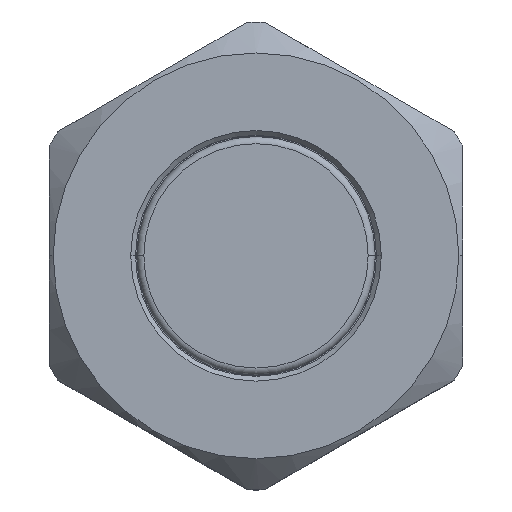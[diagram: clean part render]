
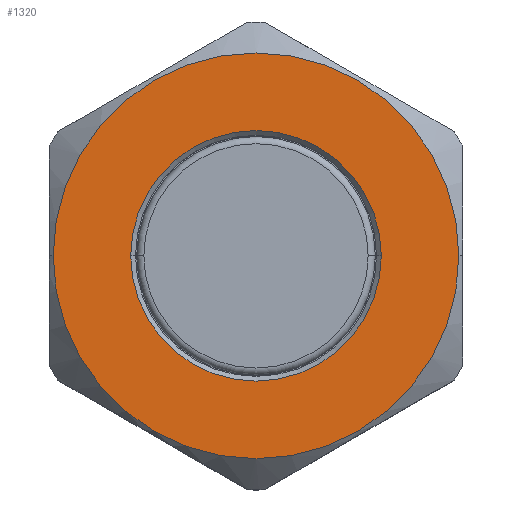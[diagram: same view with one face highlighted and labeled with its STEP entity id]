
A CAD part, top view. The second image highlights one B-rep face of the part: STEP entity #1320.
In plain terms, the highlighted planar face has unit normal (0, 0, 1).
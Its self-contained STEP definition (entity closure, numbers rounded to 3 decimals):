
#51 = CARTESIAN_POINT ( 'NONE',  ( 8.5, 0., 8.5 ) ) ;
#84 = FACE_BOUND ( 'NONE', #1459, .T. ) ;
#174 = EDGE_LOOP ( 'NONE', ( #2696, #2288 ) ) ;
#285 = EDGE_CURVE ( 'NONE', #3023, #902, #2658, .T. ) ;
#352 = EDGE_CURVE ( 'NONE', #1961, #3264, #2606, .T. ) ;
#403 = CARTESIAN_POINT ( 'NONE',  ( 0., 0., 8.5 ) ) ;
#413 = DIRECTION ( 'NONE',  ( 0., 0., 1. ) ) ;
#449 = AXIS2_PLACEMENT_3D ( 'NONE', #1712, #504, #3222 ) ;
#483 = CARTESIAN_POINT ( 'NONE',  ( 0., 0., 8.5 ) ) ;
#504 = DIRECTION ( 'NONE',  ( 0., 0., 1. ) ) ;
#557 = EDGE_CURVE ( 'NONE', #902, #3023, #1195, .T. ) ;
#576 = CARTESIAN_POINT ( 'NONE',  ( 0., 0., 8.5 ) ) ;
#757 = CARTESIAN_POINT ( 'NONE',  ( -5.25, 0., 8.5 ) ) ;
#902 = VERTEX_POINT ( 'NONE', #2639 ) ;
#909 = ORIENTED_EDGE ( 'NONE', *, *, #352, .T. ) ;
#1172 = CARTESIAN_POINT ( 'NONE',  ( 5.25, 0., 8.5 ) ) ;
#1195 = CIRCLE ( 'NONE', #449, 8.5 ) ;
#1203 = DIRECTION ( 'NONE',  ( 1., 0., 0. ) ) ;
#1233 = AXIS2_PLACEMENT_3D ( 'NONE', #3203, #413, #1203 ) ;
#1307 = AXIS2_PLACEMENT_3D ( 'NONE', #576, #3150, #2865 ) ;
#1320 = ADVANCED_FACE ( 'NONE', ( #84, #1655 ), #2665, .T. ) ;
#1422 = DIRECTION ( 'NONE',  ( 0., 0., 1. ) ) ;
#1459 = EDGE_LOOP ( 'NONE', ( #909, #2258 ) ) ;
#1480 = DIRECTION ( 'NONE',  ( 0., 0., -1. ) ) ;
#1655 = FACE_OUTER_BOUND ( 'NONE', #174, .T. ) ;
#1712 = CARTESIAN_POINT ( 'NONE',  ( 0., 0., 8.5 ) ) ;
#1724 = DIRECTION ( 'NONE',  ( 1., 0., 0. ) ) ;
#1831 = CIRCLE ( 'NONE', #1307, 5.25 ) ;
#1961 = VERTEX_POINT ( 'NONE', #1172 ) ;
#2017 = AXIS2_PLACEMENT_3D ( 'NONE', #483, #1480, #1724 ) ;
#2130 = DIRECTION ( 'NONE',  ( 1., 0., 0. ) ) ;
#2258 = ORIENTED_EDGE ( 'NONE', *, *, #2711, .T. ) ;
#2288 = ORIENTED_EDGE ( 'NONE', *, *, #285, .T. ) ;
#2606 = CIRCLE ( 'NONE', #2017, 5.25 ) ;
#2639 = CARTESIAN_POINT ( 'NONE',  ( -8.5, 0., 8.5 ) ) ;
#2658 = CIRCLE ( 'NONE', #1233, 8.5 ) ;
#2665 = PLANE ( 'NONE',  #2811 ) ;
#2696 = ORIENTED_EDGE ( 'NONE', *, *, #557, .T. ) ;
#2711 = EDGE_CURVE ( 'NONE', #3264, #1961, #1831, .T. ) ;
#2811 = AXIS2_PLACEMENT_3D ( 'NONE', #403, #1422, #2130 ) ;
#2865 = DIRECTION ( 'NONE',  ( 1., 0., 0. ) ) ;
#3023 = VERTEX_POINT ( 'NONE', #51 ) ;
#3150 = DIRECTION ( 'NONE',  ( 0., 0., -1. ) ) ;
#3203 = CARTESIAN_POINT ( 'NONE',  ( 0., 0., 8.5 ) ) ;
#3222 = DIRECTION ( 'NONE',  ( 1., 0., 0. ) ) ;
#3264 = VERTEX_POINT ( 'NONE', #757 ) ;
